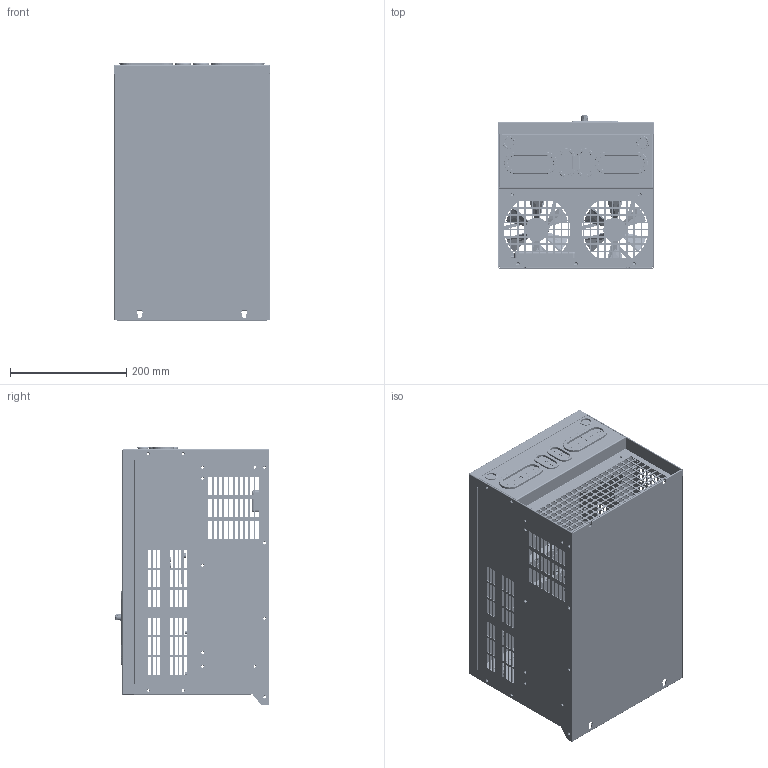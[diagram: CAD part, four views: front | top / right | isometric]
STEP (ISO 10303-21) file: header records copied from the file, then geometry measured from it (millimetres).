
FILE_DESCRIPTION((''),'2;1');
FILE_NAME('SD200-4T-37-45KW','2020-05-25T',('ranqinwen'),(''),'CREO PARAMETRIC BY PTC INC, 2016260','CREO PARAMETRIC BY PTC INC, 2016260','');
FILE_SCHEMA(('AUTOMOTIVE_DESIGN { 1 0 10303 214 1 1 1 1 }'));
Products named in the file (1): SD200-4T-37-45KW
Bounding box: 270 x 263.5 x 444 mm (x, y, z)
Surface area: 1947291.8 mm2 (no closed solid volume)
Topology: 0 solids, 250 shells, 10262 faces, 27178 edges, 17309 vertices
Faces by surface type: plane 6934, cylinder 2486, torus 248, extrusion 209, bspline 196, cone 143, sphere 42, revolution 4
Entity records: 454480 total; most frequent: CARTESIAN_POINT 66864, ORIENTED_EDGE 54284, DIRECTION 52207, PRESENTATION_STYLE_ASSIGNMENT 33814, STYLED_ITEM 27400, CURVE_STYLE 27150, EDGE_CURVE 27142, VECTOR 20251
